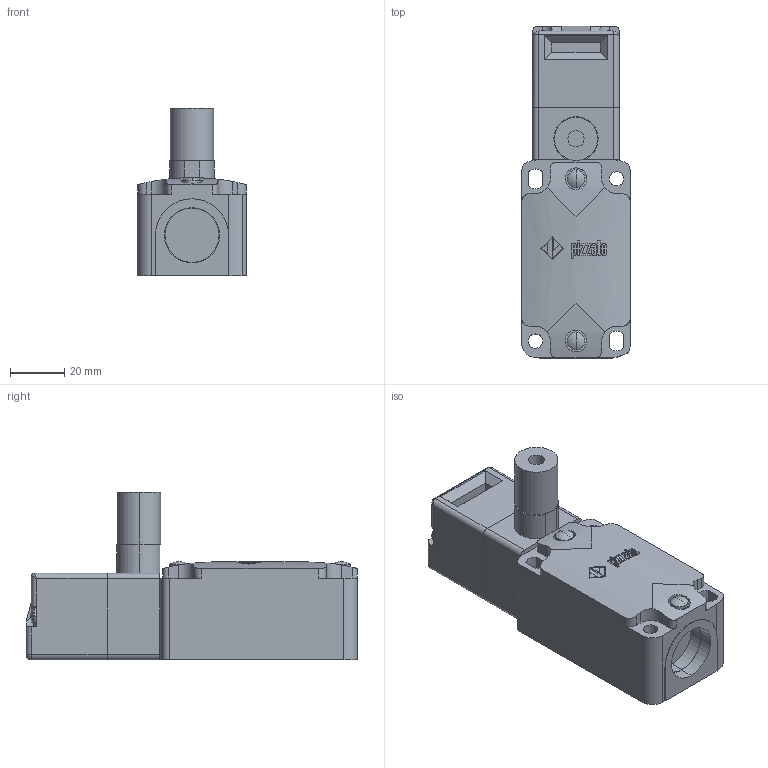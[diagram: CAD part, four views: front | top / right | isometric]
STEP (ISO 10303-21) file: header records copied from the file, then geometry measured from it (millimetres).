
FILE_DESCRIPTION (( 'STEP AP214' ), '1' );
FILE_NAME ('ZF_STEP_FD_xR2-Lx0_A10.step', '2014-04-10T09:03:23', ( 'utente' ), ( 'Microsoft' ), 'SwSTEP 2.0', 'SolidWorks 2013', '' );
FILE_SCHEMA (( 'AUTOMOTIVE_DESIGN' ));
Length unit declared in the file: millimetre
Products named in the file (5): ZF_STEP_VF_TR2-L_A10; Pizzato_Supporto_T93_T96_TS96; Pizzato_Modulo_R2_L; Pizzato_Custodia_FD; ZF_STEP_FD_xR2-Lx0_A10
Assembly tree (4 placements, depth 3):
  ZF_STEP_FD_xR2-Lx0_A10
    Pizzato_Custodia_FD
    ZF_STEP_VF_TR2-L_A10
      Pizzato_Modulo_R2_L
      Pizzato_Supporto_T93_T96_TS96
Bounding box: 40 x 122.7 x 62 mm (x, y, z)
Volume: 145108.5 mm3; surface area: 32289.8 mm2
Topology: 3 solids, 3 shells, 466 faces, 1224 edges, 804 vertices
Faces by surface type: plane 265, bspline 99, cylinder 88, sphere 10, torus 4
Entity records: 19668 total; most frequent: CARTESIAN_POINT 8610, ORIENTED_EDGE 2440, DIRECTION 1923, EDGE_CURVE 1220, VERTEX_POINT 804, LINE 739, VECTOR 739, AXIS2_PLACEMENT_3D 592
